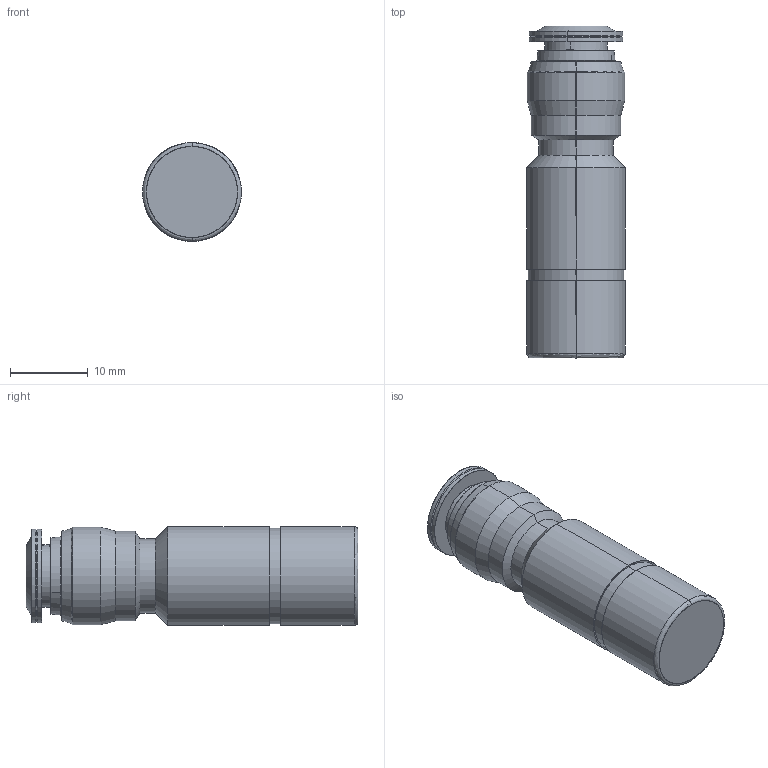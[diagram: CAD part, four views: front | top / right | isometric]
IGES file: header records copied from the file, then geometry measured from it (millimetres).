
Start section: SolidWorks IGES file using analytic representation for surfaces
Global section: file name: K:\Disegni Esecutivi\ALPHA TECHNOLOGIES\Assiemi-89000\89700\89700_iges\897000004A.igs; native system: SolidWorks 2011; preprocessor: SolidWorks 2011; author: cad05; date: 110222.085751; units: millimetre
Bounding box: 12.7 x 42.6 x 12.7 mm (x, y, z)
Surface area: 2034.7 mm2 (no closed solid volume)
Topology: 0 solids, 0 shells, 51 faces, 632 edges, 632 vertices
Faces by surface type: revolution 38, bspline 13
